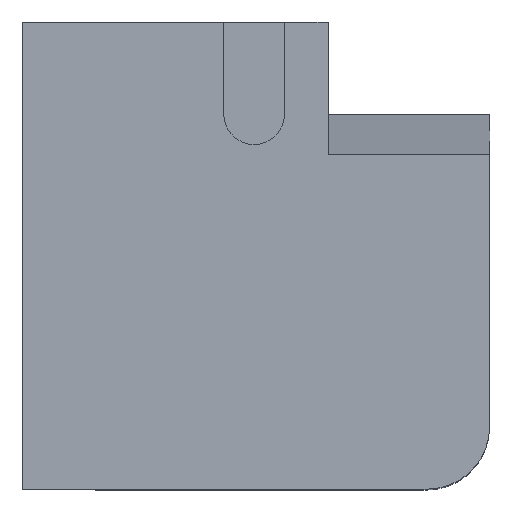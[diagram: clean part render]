
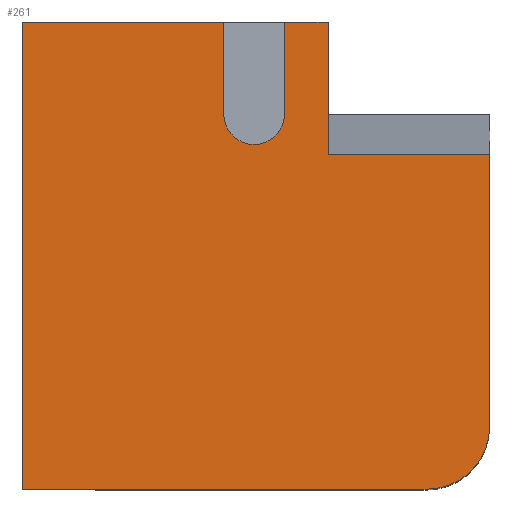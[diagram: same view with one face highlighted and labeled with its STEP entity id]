
A CAD part, top view. The second image highlights one B-rep face of the part: STEP entity #261.
In plain terms, the highlighted planar face has unit normal (0, 0, 1).
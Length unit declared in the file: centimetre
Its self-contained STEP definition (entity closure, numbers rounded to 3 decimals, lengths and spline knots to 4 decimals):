
#39 = LINE ( 'NONE', #418, #945 ) ;
#45 = DIRECTION ( 'NONE',  ( 0., -1., 0. ) ) ;
#46 = EDGE_CURVE ( 'NONE', #238, #530, #94, .T. ) ;
#48 = DIRECTION ( 'NONE',  ( 1., 0., 0. ) ) ;
#64 = LINE ( 'NONE', #770, #407 ) ;
#69 = EDGE_CURVE ( 'NONE', #706, #715, #641, .T. ) ;
#71 = CARTESIAN_POINT ( 'NONE',  ( 0., 1000., 1000. ) ) ;
#82 = CARTESIAN_POINT ( 'NONE',  ( 0., 1000., 1000. ) ) ;
#92 = AXIS2_PLACEMENT_3D ( 'NONE', #502, #786, #48 ) ;
#94 = LINE ( 'NONE', #990, #764 ) ;
#101 = DIRECTION ( 'NONE',  ( 1., 0., 0. ) ) ;
#111 = CARTESIAN_POINT ( 'NONE',  ( 1000., 716.4559, 1000. ) ) ;
#127 = CARTESIAN_POINT ( 'NONE',  ( 654.545, 716.4559, 1000. ) ) ;
#131 = VECTOR ( 'NONE', #1130, 100. ) ;
#132 = CARTESIAN_POINT ( 'NONE',  ( 560.7849, 1000., 1000. ) ) ;
#146 = VECTOR ( 'NONE', #246, 100. ) ;
#154 = VERTEX_POINT ( 'NONE', #127 ) ;
#156 = EDGE_CURVE ( 'NONE', #393, #942, #1044, .T. ) ;
#167 = CARTESIAN_POINT ( 'NONE',  ( 431.065, 802.6666, 1000. ) ) ;
#179 = VERTEX_POINT ( 'NONE', #493 ) ;
#181 = CIRCLE ( 'NONE', #92, 133.9698 ) ;
#200 = VECTOR ( 'NONE', #995, 100. ) ;
#206 = LINE ( 'NONE', #640, #200 ) ;
#215 = CARTESIAN_POINT ( 'NONE',  ( 1000., 133.9698, 1000. ) ) ;
#220 = DIRECTION ( 'NONE',  ( -1., 0., 0. ) ) ;
#221 = ORIENTED_EDGE ( 'NONE', *, *, #313, .F. ) ;
#238 = VERTEX_POINT ( 'NONE', #215 ) ;
#245 = LINE ( 'NONE', #522, #291 ) ;
#246 = DIRECTION ( 'NONE',  ( 0., 1., 0. ) ) ;
#261 = ADVANCED_FACE ( 'NONE', ( #1103 ), #311, .T. ) ;
#287 = VECTOR ( 'NONE', #101, 100. ) ;
#291 = VECTOR ( 'NONE', #45, 100. ) ;
#307 = CARTESIAN_POINT ( 'NONE',  ( 495.9249, 802.6666, 1000. ) ) ;
#311 = PLANE ( 'NONE',  #978 ) ;
#313 = EDGE_CURVE ( 'NONE', #942, #585, #590, .T. ) ;
#349 = CARTESIAN_POINT ( 'NONE',  ( 560.7849, 802.6666, 1000. ) ) ;
#352 = CARTESIAN_POINT ( 'NONE',  ( 0., 0., 1000. ) ) ;
#354 = ORIENTED_EDGE ( 'NONE', *, *, #782, .F. ) ;
#364 = EDGE_CURVE ( 'NONE', #715, #238, #181, .T. ) ;
#387 = CARTESIAN_POINT ( 'NONE',  ( 0., 1000., 1000. ) ) ;
#393 = VERTEX_POINT ( 'NONE', #167 ) ;
#395 = ORIENTED_EDGE ( 'NONE', *, *, #678, .T. ) ;
#407 = VECTOR ( 'NONE', #608, 100. ) ;
#417 = ORIENTED_EDGE ( 'NONE', *, *, #738, .T. ) ;
#418 = CARTESIAN_POINT ( 'NONE',  ( 0., 1000., 1000. ) ) ;
#419 = ORIENTED_EDGE ( 'NONE', *, *, #46, .T. ) ;
#458 = LINE ( 'NONE', #82, #131 ) ;
#459 = ORIENTED_EDGE ( 'NONE', *, *, #156, .F. ) ;
#473 = CARTESIAN_POINT ( 'NONE',  ( 0., 0., 1000. ) ) ;
#484 = AXIS2_PLACEMENT_3D ( 'NONE', #307, #844, #220 ) ;
#493 = CARTESIAN_POINT ( 'NONE',  ( 431.065, 1000., 1000. ) ) ;
#502 = CARTESIAN_POINT ( 'NONE',  ( 866.0302, 133.9698, 1000. ) ) ;
#522 = CARTESIAN_POINT ( 'NONE',  ( 654.545, 1000., 1000. ) ) ;
#530 = VERTEX_POINT ( 'NONE', #111 ) ;
#548 = DIRECTION ( 'NONE',  ( 0., 1., 0. ) ) ;
#585 = VERTEX_POINT ( 'NONE', #132 ) ;
#589 = DIRECTION ( 'NONE',  ( 0., -1., 0. ) ) ;
#590 = LINE ( 'NONE', #944, #146 ) ;
#608 = DIRECTION ( 'NONE',  ( 1., 0., 0. ) ) ;
#611 = ORIENTED_EDGE ( 'NONE', *, *, #69, .T. ) ;
#619 = EDGE_CURVE ( 'NONE', #179, #393, #206, .T. ) ;
#625 = ORIENTED_EDGE ( 'NONE', *, *, #619, .F. ) ;
#632 = VECTOR ( 'NONE', #1033, 100. ) ;
#640 = CARTESIAN_POINT ( 'NONE',  ( 431.065, 802.6666, 1000. ) ) ;
#641 = LINE ( 'NONE', #352, #287 ) ;
#655 = ORIENTED_EDGE ( 'NONE', *, *, #674, .F. ) ;
#674 = EDGE_CURVE ( 'NONE', #154, #530, #64, .T. ) ;
#675 = CARTESIAN_POINT ( 'NONE',  ( 866.0302, 0., 1000. ) ) ;
#677 = DIRECTION ( 'NONE',  ( 1., 0., 0. ) ) ;
#678 = EDGE_CURVE ( 'NONE', #972, #706, #39, .T. ) ;
#688 = LINE ( 'NONE', #71, #632 ) ;
#706 = VERTEX_POINT ( 'NONE', #765 ) ;
#715 = VERTEX_POINT ( 'NONE', #675 ) ;
#738 = EDGE_CURVE ( 'NONE', #179, #972, #688, .T. ) ;
#764 = VECTOR ( 'NONE', #548, 100. ) ;
#765 = CARTESIAN_POINT ( 'NONE',  ( 0., 0., 1000. ) ) ;
#770 = CARTESIAN_POINT ( 'NONE',  ( 654.545, 716.4559, 1000. ) ) ;
#782 = EDGE_CURVE ( 'NONE', #1089, #154, #245, .T. ) ;
#786 = DIRECTION ( 'NONE',  ( 0., 0., 1. ) ) ;
#840 = EDGE_CURVE ( 'NONE', #1089, #585, #458, .T. ) ;
#844 = DIRECTION ( 'NONE',  ( 0., 0., 1. ) ) ;
#899 = ORIENTED_EDGE ( 'NONE', *, *, #364, .T. ) ;
#942 = VERTEX_POINT ( 'NONE', #349 ) ;
#944 = CARTESIAN_POINT ( 'NONE',  ( 560.7849, 1000., 1000. ) ) ;
#945 = VECTOR ( 'NONE', #589, 100. ) ;
#950 = ORIENTED_EDGE ( 'NONE', *, *, #840, .T. ) ;
#972 = VERTEX_POINT ( 'NONE', #387 ) ;
#978 = AXIS2_PLACEMENT_3D ( 'NONE', #473, #1088, #677 ) ;
#990 = CARTESIAN_POINT ( 'NONE',  ( 1000., 1000., 1000. ) ) ;
#995 = DIRECTION ( 'NONE',  ( 0., -1., 0. ) ) ;
#1033 = DIRECTION ( 'NONE',  ( -1., 0., 0. ) ) ;
#1044 = CIRCLE ( 'NONE', #484, 64.86 ) ;
#1088 = DIRECTION ( 'NONE',  ( 0., 0., 1. ) ) ;
#1089 = VERTEX_POINT ( 'NONE', #1110 ) ;
#1103 = FACE_OUTER_BOUND ( 'NONE', #1115, .T. ) ;
#1110 = CARTESIAN_POINT ( 'NONE',  ( 654.545, 1000., 1000. ) ) ;
#1115 = EDGE_LOOP ( 'NONE', ( #625, #417, #395, #611, #899, #419, #655, #354, #950, #221, #459 ) ) ;
#1130 = DIRECTION ( 'NONE',  ( -1., 0., 0. ) ) ;
